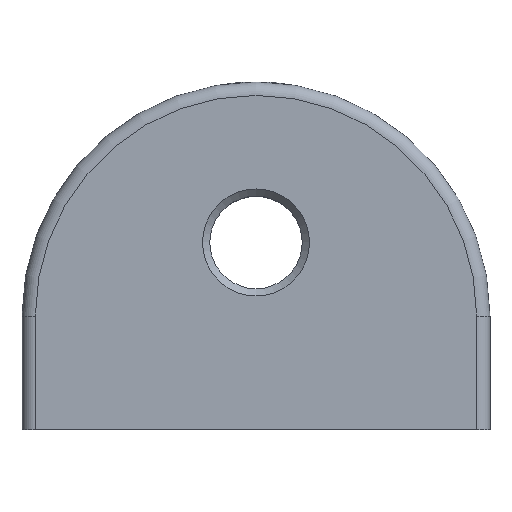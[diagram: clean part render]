
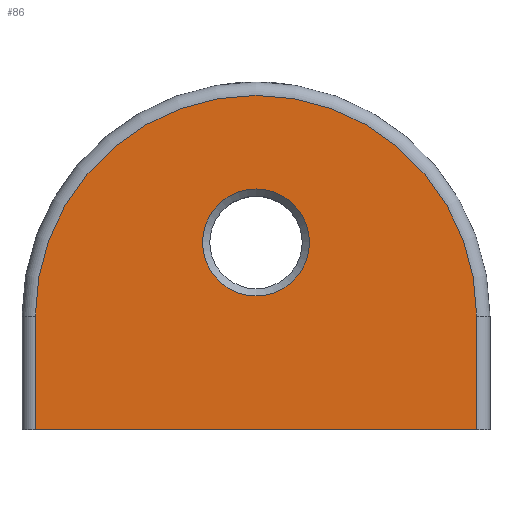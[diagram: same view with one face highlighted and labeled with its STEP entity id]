
A CAD part, top view. The second image highlights one B-rep face of the part: STEP entity #86.
In plain terms, the highlighted planar face has unit normal (0, 0, 1).
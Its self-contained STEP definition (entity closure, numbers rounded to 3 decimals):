
#86 = ADVANCED_FACE( '', ( #149, #150 ), #151, .F. );
#149 = FACE_BOUND( '', #258, .T. );
#150 = FACE_OUTER_BOUND( '', #259, .T. );
#151 = PLANE( '', #260 );
#258 = EDGE_LOOP( '', ( #420 ) );
#259 = EDGE_LOOP( '', ( #421, #422, #423, #424 ) );
#260 = AXIS2_PLACEMENT_3D( '', #425, #426, #427 );
#420 = ORIENTED_EDGE( '', *, *, #633, .T. );
#421 = ORIENTED_EDGE( '', *, *, #663, .F. );
#422 = ORIENTED_EDGE( '', *, *, #640, .F. );
#423 = ORIENTED_EDGE( '', *, *, #664, .T. );
#424 = ORIENTED_EDGE( '', *, *, #656, .T. );
#425 = CARTESIAN_POINT( '', ( -16.5, 8.5, 6. ) );
#426 = DIRECTION( '', ( 0., 0., -1. ) );
#427 = DIRECTION( '', ( -1., 0., 0. ) );
#633 = EDGE_CURVE( '', #720, #720, #721, .T. );
#640 = EDGE_CURVE( '', #733, #735, #736, .T. );
#656 = EDGE_CURVE( '', #765, #763, #766, .T. );
#663 = EDGE_CURVE( '', #735, #763, #774, .T. );
#664 = EDGE_CURVE( '', #733, #765, #775, .T. );
#720 = VERTEX_POINT( '', #970 );
#721 = CIRCLE( '', #971, 4. );
#733 = VERTEX_POINT( '', #983 );
#735 = VERTEX_POINT( '', #985 );
#736 = CIRCLE( '', #986, 16.5 );
#763 = VERTEX_POINT( '', #1022 );
#765 = VERTEX_POINT( '', #1024 );
#766 = LINE( '', #1025, #1026 );
#774 = LINE( '', #1038, #1039 );
#775 = LINE( '', #1040, #1041 );
#970 = CARTESIAN_POINT( '', ( -4., 14., 6. ) );
#971 = AXIS2_PLACEMENT_3D( '', #1151, #1152, #1153 );
#983 = CARTESIAN_POINT( '', ( -16.5, 8.5, 6. ) );
#985 = CARTESIAN_POINT( '', ( 16.5, 8.5, 6. ) );
#986 = AXIS2_PLACEMENT_3D( '', #1172, #1173, #1174 );
#1022 = CARTESIAN_POINT( '', ( 16.5, 0., 6. ) );
#1024 = CARTESIAN_POINT( '', ( -16.5, 0., 6. ) );
#1025 = CARTESIAN_POINT( '', ( -16.5, 0., 6. ) );
#1026 = VECTOR( '', #1202, 1000. );
#1038 = CARTESIAN_POINT( '', ( 16.5, 8.5, 6. ) );
#1039 = VECTOR( '', #1213, 1000. );
#1040 = CARTESIAN_POINT( '', ( -16.5, 8.5, 6. ) );
#1041 = VECTOR( '', #1214, 1000. );
#1151 = CARTESIAN_POINT( '', ( 0., 14., 6. ) );
#1152 = DIRECTION( '', ( 0., 0., -1. ) );
#1153 = DIRECTION( '', ( -1., 0., 0. ) );
#1172 = CARTESIAN_POINT( '', ( 0., 8.5, 6. ) );
#1173 = DIRECTION( '', ( 0., 0., -1. ) );
#1174 = DIRECTION( '', ( -1., 0., 0. ) );
#1202 = DIRECTION( '', ( 1., 0., 0. ) );
#1213 = DIRECTION( '', ( 0., -1., 0. ) );
#1214 = DIRECTION( '', ( 0., -1., 0. ) );
